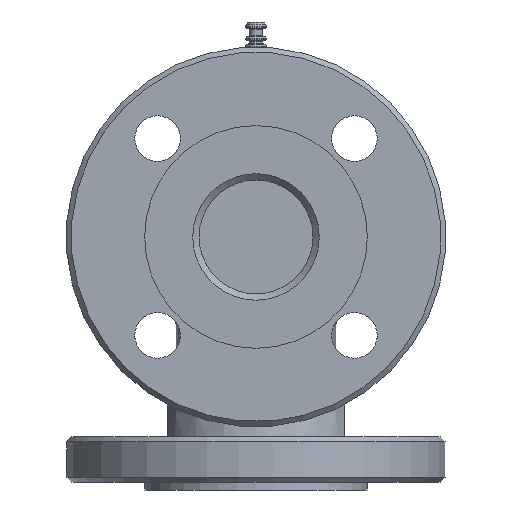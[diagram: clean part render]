
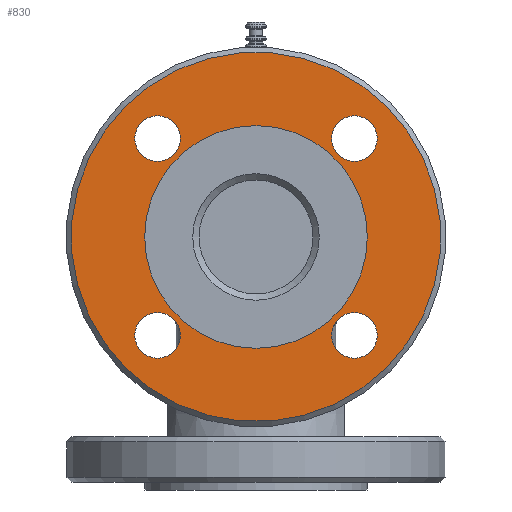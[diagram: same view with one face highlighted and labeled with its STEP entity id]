
A CAD part, left-side view. The second image highlights one B-rep face of the part: STEP entity #830.
In plain terms, the highlighted planar face has unit normal (-1, 0, 0).
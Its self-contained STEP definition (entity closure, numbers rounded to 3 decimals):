
#347=PLANE('',#3520);
#564=FACE_BOUND('',#1335,.T.);
#565=FACE_BOUND('',#1336,.T.);
#566=FACE_BOUND('',#1337,.T.);
#567=FACE_BOUND('',#1338,.T.);
#568=FACE_BOUND('',#1339,.T.);
#569=FACE_BOUND('',#1340,.T.);
#830=ADVANCED_FACE('',(#564,#565,#566,#567,#568,#569),#347,.T.);
#1335=EDGE_LOOP('',(#2257));
#1336=EDGE_LOOP('',(#2258));
#1337=EDGE_LOOP('',(#2259));
#1338=EDGE_LOOP('',(#2260));
#1339=EDGE_LOOP('',(#2261));
#1340=EDGE_LOOP('',(#2262));
#1572=CIRCLE('',#3476,44.);
#1593=CIRCLE('',#3515,73.);
#1594=CIRCLE('',#3516,9.);
#1595=CIRCLE('',#3517,9.);
#1596=CIRCLE('',#3518,9.);
#1597=CIRCLE('',#3519,9.);
#2257=ORIENTED_EDGE('',*,*,#2992,.T.);
#2258=ORIENTED_EDGE('',*,*,#2965,.T.);
#2259=ORIENTED_EDGE('',*,*,#2993,.T.);
#2260=ORIENTED_EDGE('',*,*,#2994,.T.);
#2261=ORIENTED_EDGE('',*,*,#2995,.T.);
#2262=ORIENTED_EDGE('',*,*,#2996,.T.);
#2606=VERTEX_POINT('',#11539);
#2625=VERTEX_POINT('',#11609);
#2626=VERTEX_POINT('',#11611);
#2627=VERTEX_POINT('',#11613);
#2628=VERTEX_POINT('',#11615);
#2629=VERTEX_POINT('',#11617);
#2965=EDGE_CURVE('',#2606,#2606,#1572,.T.);
#2992=EDGE_CURVE('',#2625,#2625,#1593,.T.);
#2993=EDGE_CURVE('',#2626,#2626,#1594,.T.);
#2994=EDGE_CURVE('',#2627,#2627,#1595,.T.);
#2995=EDGE_CURVE('',#2628,#2628,#1596,.T.);
#2996=EDGE_CURVE('',#2629,#2629,#1597,.T.);
#3476=AXIS2_PLACEMENT_3D('',#11538,#4238,#4239);
#3515=AXIS2_PLACEMENT_3D('',#11608,#4320,#4321);
#3516=AXIS2_PLACEMENT_3D('',#11610,#4322,#4323);
#3517=AXIS2_PLACEMENT_3D('',#11612,#4324,#4325);
#3518=AXIS2_PLACEMENT_3D('',#11614,#4326,#4327);
#3519=AXIS2_PLACEMENT_3D('',#11616,#4328,#4329);
#3520=AXIS2_PLACEMENT_3D('',#11618,#4330,#4331);
#4238=DIRECTION('',(1.,0.,0.));
#4239=DIRECTION('',(0.,0.,1.));
#4320=DIRECTION('',(-1.,0.,0.));
#4321=DIRECTION('',(0.,0.707,0.707));
#4322=DIRECTION('',(1.,0.,0.));
#4323=DIRECTION('',(0.,-0.707,0.707));
#4324=DIRECTION('',(1.,0.,0.));
#4325=DIRECTION('',(0.,0.707,0.707));
#4326=DIRECTION('',(1.,0.,0.));
#4327=DIRECTION('',(0.,0.707,-0.707));
#4328=DIRECTION('',(1.,0.,0.));
#4329=DIRECTION('',(0.,-0.707,-0.707));
#4330=DIRECTION('',(-1.,0.,0.));
#4331=DIRECTION('',(0.,0.707,0.707));
#11538=CARTESIAN_POINT('',(3.,0.,100.));
#11539=CARTESIAN_POINT('',(3.,0.,144.));
#11608=CARTESIAN_POINT('',(3.,0.,100.));
#11609=CARTESIAN_POINT('',(3.,51.619,151.619));
#11610=CARTESIAN_POINT('',(3.,38.891,138.891));
#11611=CARTESIAN_POINT('',(3.,32.527,145.255));
#11612=CARTESIAN_POINT('',(3.,38.891,61.109));
#11613=CARTESIAN_POINT('',(3.,45.255,67.473));
#11614=CARTESIAN_POINT('',(3.,-38.891,61.109));
#11615=CARTESIAN_POINT('',(3.,-32.527,54.745));
#11616=CARTESIAN_POINT('',(3.,-38.891,138.891));
#11617=CARTESIAN_POINT('',(3.,-45.255,132.527));
#11618=CARTESIAN_POINT('',(3.,0.,100.));
